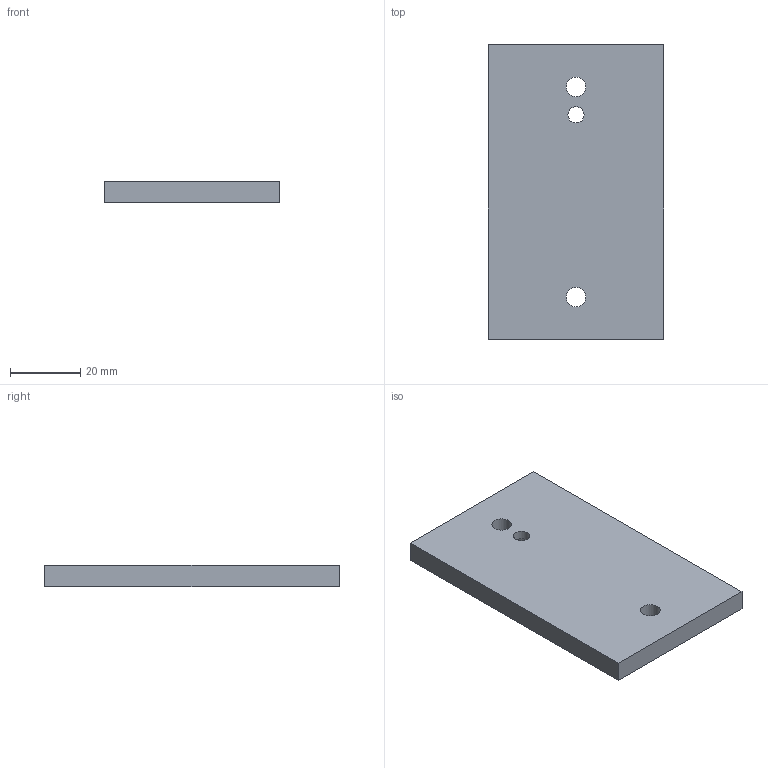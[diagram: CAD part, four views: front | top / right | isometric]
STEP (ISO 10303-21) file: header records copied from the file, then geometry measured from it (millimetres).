
FILE_DESCRIPTION(('Open CASCADE Model'),'2;1');
FILE_NAME('Open CASCADE Shape Model','2026-10-08T14:17:54',('Author'),( 'Open CASCADE'),'Open CASCADE STEP processor 7.9','Open CASCADE 7.9' ,'Unknown');
FILE_SCHEMA(('AUTOMOTIVE_DESIGN { 1 0 10303 214 1 1 1 1 }'));
Length unit declared in the file: millimetre
Products named in the file (1): Open CASCADE STEP translator 7.9 7
Bounding box: 50 x 84 x 6 mm (x, y, z)
Volume: 24705.4 mm3; surface area: 10210.6 mm2
Topology: 1 solids, 1 shells, 16 faces, 39 edges, 26 vertices
Faces by surface type: plane 13, cylinder 3
Full cylindrical faces by diameter (mm): 4.6 x1, 5.6 x2
Entity records: 1016 total; most frequent: CARTESIAN_POINT 196, DIRECTION 151, LINE 105, VECTOR 105, ORIENTED_EDGE 78, PCURVE 78, DEFINITIONAL_REPRESENTATION 78, EDGE_CURVE 39
